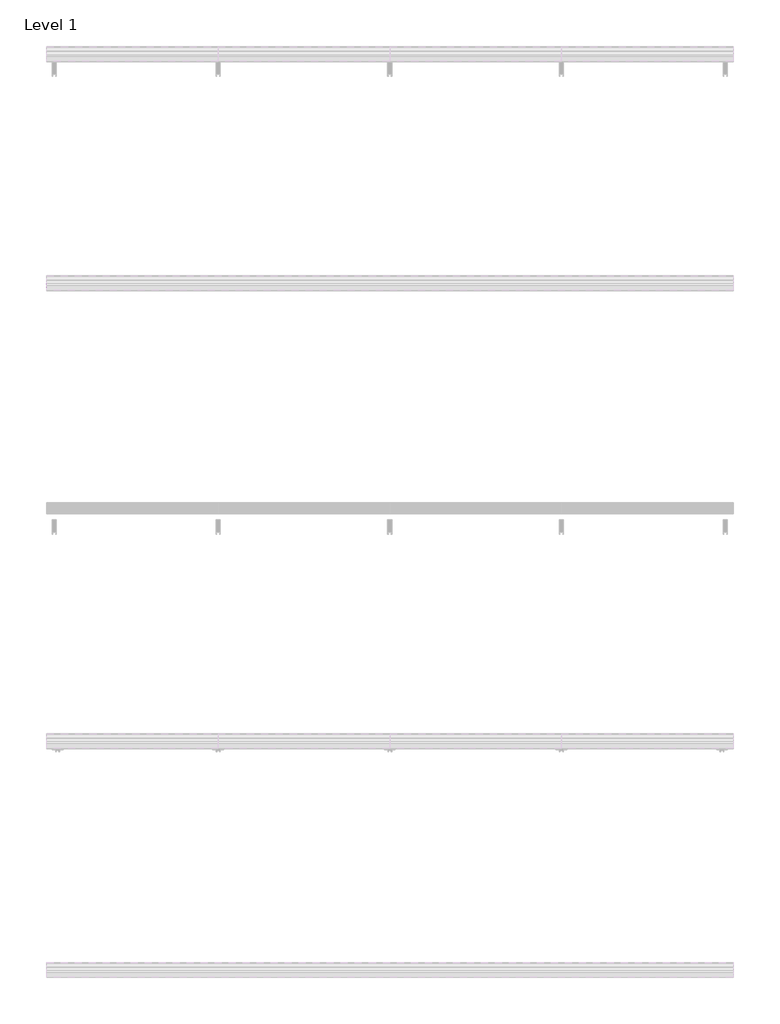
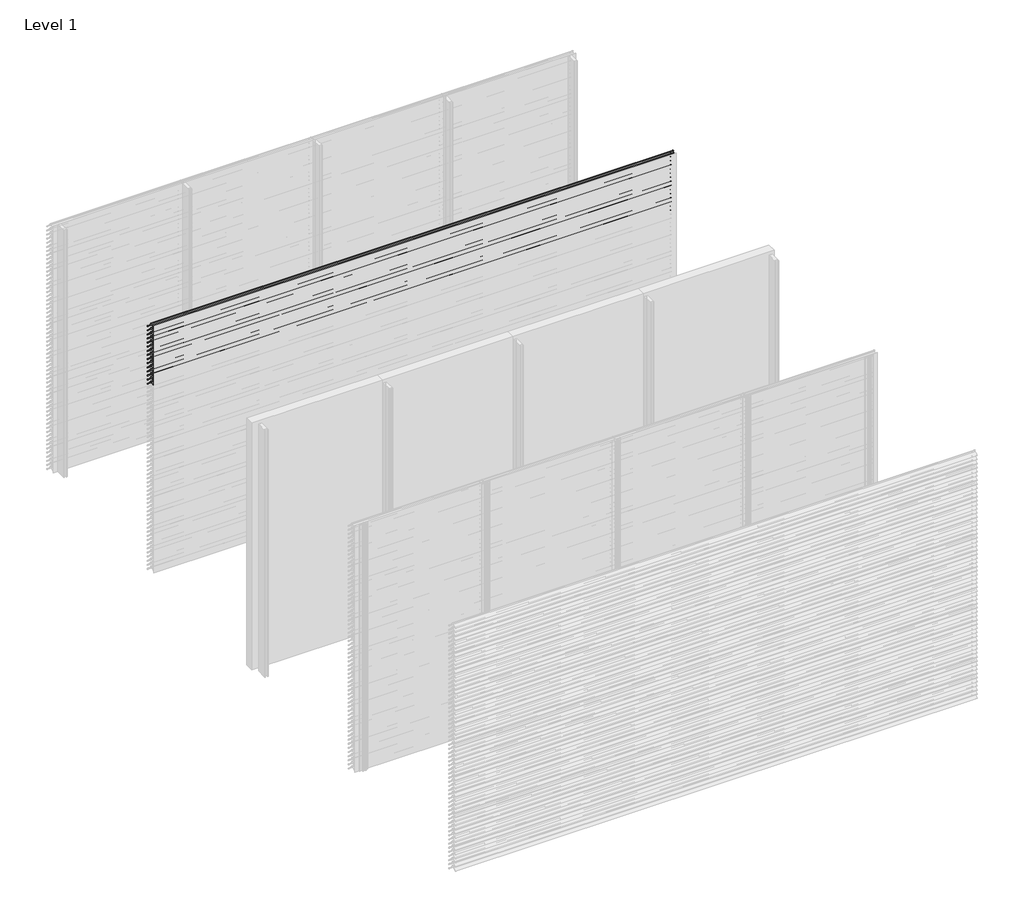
# One storey, part 20 of 173: 17 proxies.
"""IFC4 building model written with IfcOpenShell, lengths in millimetres."""

from ifc_helpers import new_model, si_unit, point, frame, frame_2d, origin, place, context, project, spatial, polyline, circle_curve, trimmed, segment, composite_curve, outline, extrude, element, save

model = new_model("IFC4")

# Units and contexts
model_context = context("Model", 3, world=origin())
ifc_project = project(units=[si_unit("LENGTHUNIT", "METRE", prefix="MILLI")], contexts=[model_context])

# Site, building, storey
site = spatial("IfcSite", under=ifc_project)
building = spatial("IfcBuilding", under=site)
storey = spatial("IfcBuildingStorey", under=building, Name="Level 1", Elevation=0.0)

# Proxies
placement = place(None, origin())
element("IfcBuildingElementProxy", 1, Name="Wall Sweeps", at=placement, inside=storey, context=model_context, shape_type="SweptSolid", body=[
    extrude(outline(composite_curve([segment(polyline([(-49998.0, 2959.1474905), (-49998.0, 2961.6227417)]), True, "CONTINUOUS"), segment(trimmed(circle_curve(frame_2d((-49951.2682172, 2916.2200208)), 65.1557103), [point((-49998.0, 2961.6227417))], [point((-49954.4014323, 2981.3003524))], False, "CARTESIAN"), True, "CONTINUOUS"), segment(polyline([(-49954.4014323, 2981.3003524), (-49934.8315836, 2981.3003524)]), True, "CONTINUOUS"), segment(trimmed(circle_curve(frame_2d((-49732.7329489, 3128.5533172)), 250.0545817), [point((-49934.8315836, 2981.3003524))], [point((-49941.4452143, 2990.8344583))], False, "CARTESIAN"), True, "CONTINUOUS"), segment(trimmed(circle_curve(frame_2d((-49953.2981792, 2985.1737835)), 13.1352966), [point((-49941.4452143, 2990.8344583))], [point((-49953.8171475, 2998.298824))], True, "CARTESIAN"), True, "CONTINUOUS"), segment(polyline([(-49953.8171475, 2998.298824), (-49953.8171475, 3000.0)]), True, "CONTINUOUS"), segment(trimmed(circle_curve(frame_2d((-49953.2981792, 2985.1737835)), 14.8352966), [point((-49953.8171475, 3000.0))], [point((-49939.9637661, 2991.6760487))], False, "CARTESIAN"), True, "CONTINUOUS"), segment(trimmed(circle_curve(frame_2d((-49732.7329489, 3128.5533172)), 248.3545817), [point((-49939.9637661, 2991.6760487))], [point((-49873.8787895, 2924.2059416))], True, "CARTESIAN"), True, "CONTINUOUS"), segment(trimmed(circle_curve(frame_2d((-49883.8147537, 2911.6649442)), 16.0), [point((-49873.8787895, 2924.2059416))], [point((-49867.8648347, 2910.4))], False, "CARTESIAN"), True, "CONTINUOUS"), segment(polyline([(-49867.8648347, 2910.4), (-49869.6712069, 2910.4)]), True, "CONTINUOUS"), segment(trimmed(circle_curve(frame_2d((-49883.8147537, 2911.6649442)), 14.2), [point((-49869.6712069, 2910.4))], [point((-49874.9518628, 2922.7594998))], True, "CARTESIAN"), True, "CONTINUOUS"), segment(trimmed(circle_curve(frame_2d((-49732.7329489, 3128.5533172)), 250.1545817), [point((-49874.9518628, 2922.7594998))], [point((-49933.7064024, 2979.6003524))], False, "CARTESIAN"), True, "CONTINUOUS"), segment(polyline([(-49933.7064024, 2979.6003524), (-49954.3602632, 2979.6003524)]), True, "CONTINUOUS"), segment(trimmed(circle_curve(frame_2d((-49951.2682172, 2916.2200208)), 63.4557103), [point((-49954.3602632, 2979.6003524))], [point((-49998.0, 2959.1474905))], True, "CARTESIAN"), True, "CONTINUOUS")], self_intersect=False)), frame((0.0, 0.0, 0.0), z_axis=(1.0, 0.0, 0.0), x_axis=(0.0, 1.0, 0.0)), (0.0, 0.0, 1.0), 6000.0),
])
element("IfcBuildingElementProxy", 2, Name="Wall Sweeps", at=placement, inside=storey, context=model_context, shape_type="SweptSolid", body=[
    extrude(outline(composite_curve([segment(polyline([(-49998.0, 2909.1474905), (-49998.0, 2911.6227417)]), True, "CONTINUOUS"), segment(trimmed(circle_curve(frame_2d((-49951.2682172, 2866.2200208)), 65.1557103), [point((-49998.0, 2911.6227417))], [point((-49954.4014323, 2931.3003524))], False, "CARTESIAN"), True, "CONTINUOUS"), segment(polyline([(-49954.4014323, 2931.3003524), (-49934.8315836, 2931.3003524)]), True, "CONTINUOUS"), segment(trimmed(circle_curve(frame_2d((-49732.7329489, 3078.5533172)), 250.0545817), [point((-49934.8315836, 2931.3003524))], [point((-49941.4452143, 2940.8344583))], False, "CARTESIAN"), True, "CONTINUOUS"), segment(trimmed(circle_curve(frame_2d((-49953.2981792, 2935.1737835)), 13.1352966), [point((-49941.4452143, 2940.8344583))], [point((-49953.8171475, 2948.298824))], True, "CARTESIAN"), True, "CONTINUOUS"), segment(polyline([(-49953.8171475, 2948.298824), (-49953.8171475, 2950.0)]), True, "CONTINUOUS"), segment(trimmed(circle_curve(frame_2d((-49953.2981792, 2935.1737835)), 14.8352966), [point((-49953.8171475, 2950.0))], [point((-49939.9637661, 2941.6760487))], False, "CARTESIAN"), True, "CONTINUOUS"), segment(trimmed(circle_curve(frame_2d((-49732.7329489, 3078.5533172)), 248.3545817), [point((-49939.9637661, 2941.6760487))], [point((-49873.8787895, 2874.2059416))], True, "CARTESIAN"), True, "CONTINUOUS"), segment(trimmed(circle_curve(frame_2d((-49883.8147537, 2861.6649442)), 16.0), [point((-49873.8787895, 2874.2059416))], [point((-49867.8648347, 2860.4))], False, "CARTESIAN"), True, "CONTINUOUS"), segment(polyline([(-49867.8648347, 2860.4), (-49869.6712069, 2860.4)]), True, "CONTINUOUS"), segment(trimmed(circle_curve(frame_2d((-49883.8147537, 2861.6649442)), 14.2), [point((-49869.6712069, 2860.4))], [point((-49874.9518628, 2872.7594998))], True, "CARTESIAN"), True, "CONTINUOUS"), segment(trimmed(circle_curve(frame_2d((-49732.7329489, 3078.5533172)), 250.1545817), [point((-49874.9518628, 2872.7594998))], [point((-49933.7064024, 2929.6003524))], False, "CARTESIAN"), True, "CONTINUOUS"), segment(polyline([(-49933.7064024, 2929.6003524), (-49954.3602632, 2929.6003524)]), True, "CONTINUOUS"), segment(trimmed(circle_curve(frame_2d((-49951.2682172, 2866.2200208)), 63.4557103), [point((-49954.3602632, 2929.6003524))], [point((-49998.0, 2909.1474905))], True, "CARTESIAN"), True, "CONTINUOUS")], self_intersect=False)), frame((0.0, 0.0, 0.0), z_axis=(1.0, 0.0, 0.0), x_axis=(0.0, 1.0, 0.0)), (0.0, 0.0, 1.0), 6000.0),
])
element("IfcBuildingElementProxy", 3, Name="Wall Sweeps", at=placement, inside=storey, context=model_context, shape_type="SweptSolid", body=[
    extrude(outline(composite_curve([segment(polyline([(-49998.0, 2859.1474905), (-49998.0, 2861.6227417)]), True, "CONTINUOUS"), segment(trimmed(circle_curve(frame_2d((-49951.2682172, 2816.2200208)), 65.1557103), [point((-49998.0, 2861.6227417))], [point((-49954.4014323, 2881.3003524))], False, "CARTESIAN"), True, "CONTINUOUS"), segment(polyline([(-49954.4014323, 2881.3003524), (-49934.8315836, 2881.3003524)]), True, "CONTINUOUS"), segment(trimmed(circle_curve(frame_2d((-49732.7329489, 3028.5533172)), 250.0545817), [point((-49934.8315836, 2881.3003524))], [point((-49941.4452143, 2890.8344583))], False, "CARTESIAN"), True, "CONTINUOUS"), segment(trimmed(circle_curve(frame_2d((-49953.2981792, 2885.1737835)), 13.1352966), [point((-49941.4452143, 2890.8344583))], [point((-49953.8171475, 2898.298824))], True, "CARTESIAN"), True, "CONTINUOUS"), segment(polyline([(-49953.8171475, 2898.298824), (-49953.8171475, 2900.0)]), True, "CONTINUOUS"), segment(trimmed(circle_curve(frame_2d((-49953.2981792, 2885.1737835)), 14.8352966), [point((-49953.8171475, 2900.0))], [point((-49939.9637661, 2891.6760487))], False, "CARTESIAN"), True, "CONTINUOUS"), segment(trimmed(circle_curve(frame_2d((-49732.7329489, 3028.5533172)), 248.3545817), [point((-49939.9637661, 2891.6760487))], [point((-49873.8787895, 2824.2059416))], True, "CARTESIAN"), True, "CONTINUOUS"), segment(trimmed(circle_curve(frame_2d((-49883.8147537, 2811.6649442)), 16.0), [point((-49873.8787895, 2824.2059416))], [point((-49867.8648347, 2810.4))], False, "CARTESIAN"), True, "CONTINUOUS"), segment(polyline([(-49867.8648347, 2810.4), (-49869.6712069, 2810.4)]), True, "CONTINUOUS"), segment(trimmed(circle_curve(frame_2d((-49883.8147537, 2811.6649442)), 14.2), [point((-49869.6712069, 2810.4))], [point((-49874.9518628, 2822.7594998))], True, "CARTESIAN"), True, "CONTINUOUS"), segment(trimmed(circle_curve(frame_2d((-49732.7329489, 3028.5533172)), 250.1545817), [point((-49874.9518628, 2822.7594998))], [point((-49933.7064024, 2879.6003524))], False, "CARTESIAN"), True, "CONTINUOUS"), segment(polyline([(-49933.7064024, 2879.6003524), (-49954.3602632, 2879.6003524)]), True, "CONTINUOUS"), segment(trimmed(circle_curve(frame_2d((-49951.2682172, 2816.2200208)), 63.4557103), [point((-49954.3602632, 2879.6003524))], [point((-49998.0, 2859.1474905))], True, "CARTESIAN"), True, "CONTINUOUS")], self_intersect=False)), frame((0.0, 0.0, 0.0), z_axis=(1.0, 0.0, 0.0), x_axis=(0.0, 1.0, 0.0)), (0.0, 0.0, 1.0), 6000.0),
])
element("IfcBuildingElementProxy", 4, Name="Wall Sweeps", at=placement, inside=storey, context=model_context, shape_type="SweptSolid", body=[
    extrude(outline(composite_curve([segment(polyline([(-49998.0, 2809.1474905), (-49998.0, 2811.6227417)]), True, "CONTINUOUS"), segment(trimmed(circle_curve(frame_2d((-49951.2682172, 2766.2200208)), 65.1557103), [point((-49998.0, 2811.6227417))], [point((-49954.4014323, 2831.3003524))], False, "CARTESIAN"), True, "CONTINUOUS"), segment(polyline([(-49954.4014323, 2831.3003524), (-49934.8315836, 2831.3003524)]), True, "CONTINUOUS"), segment(trimmed(circle_curve(frame_2d((-49732.7329489, 2978.5533172)), 250.0545817), [point((-49934.8315836, 2831.3003524))], [point((-49941.4452143, 2840.8344583))], False, "CARTESIAN"), True, "CONTINUOUS"), segment(trimmed(circle_curve(frame_2d((-49953.2981792, 2835.1737835)), 13.1352966), [point((-49941.4452143, 2840.8344583))], [point((-49953.8171475, 2848.298824))], True, "CARTESIAN"), True, "CONTINUOUS"), segment(polyline([(-49953.8171475, 2848.298824), (-49953.8171475, 2850.0)]), True, "CONTINUOUS"), segment(trimmed(circle_curve(frame_2d((-49953.2981792, 2835.1737835)), 14.8352966), [point((-49953.8171475, 2850.0))], [point((-49939.9637661, 2841.6760487))], False, "CARTESIAN"), True, "CONTINUOUS"), segment(trimmed(circle_curve(frame_2d((-49732.7329489, 2978.5533172)), 248.3545817), [point((-49939.9637661, 2841.6760487))], [point((-49873.8787895, 2774.2059416))], True, "CARTESIAN"), True, "CONTINUOUS"), segment(trimmed(circle_curve(frame_2d((-49883.8147537, 2761.6649442)), 16.0), [point((-49873.8787895, 2774.2059416))], [point((-49867.8648347, 2760.4))], False, "CARTESIAN"), True, "CONTINUOUS"), segment(polyline([(-49867.8648347, 2760.4), (-49869.6712069, 2760.4)]), True, "CONTINUOUS"), segment(trimmed(circle_curve(frame_2d((-49883.8147537, 2761.6649442)), 14.2), [point((-49869.6712069, 2760.4))], [point((-49874.9518628, 2772.7594998))], True, "CARTESIAN"), True, "CONTINUOUS"), segment(trimmed(circle_curve(frame_2d((-49732.7329489, 2978.5533172)), 250.1545817), [point((-49874.9518628, 2772.7594998))], [point((-49933.7064024, 2829.6003524))], False, "CARTESIAN"), True, "CONTINUOUS"), segment(polyline([(-49933.7064024, 2829.6003524), (-49954.3602632, 2829.6003524)]), True, "CONTINUOUS"), segment(trimmed(circle_curve(frame_2d((-49951.2682172, 2766.2200208)), 63.4557103), [point((-49954.3602632, 2829.6003524))], [point((-49998.0, 2809.1474905))], True, "CARTESIAN"), True, "CONTINUOUS")], self_intersect=False)), frame((0.0, 0.0, 0.0), z_axis=(1.0, 0.0, 0.0), x_axis=(0.0, 1.0, 0.0)), (0.0, 0.0, 1.0), 6000.0),
])
element("IfcBuildingElementProxy", 5, Name="Wall Sweeps", at=placement, inside=storey, context=model_context, shape_type="SweptSolid", body=[
    extrude(outline(composite_curve([segment(polyline([(-49998.0, 2759.1474905), (-49998.0, 2761.6227417)]), True, "CONTINUOUS"), segment(trimmed(circle_curve(frame_2d((-49951.2682172, 2716.2200208)), 65.1557103), [point((-49998.0, 2761.6227417))], [point((-49954.4014323, 2781.3003524))], False, "CARTESIAN"), True, "CONTINUOUS"), segment(polyline([(-49954.4014323, 2781.3003524), (-49934.8315836, 2781.3003524)]), True, "CONTINUOUS"), segment(trimmed(circle_curve(frame_2d((-49732.7329489, 2928.5533172)), 250.0545817), [point((-49934.8315836, 2781.3003524))], [point((-49941.4452143, 2790.8344583))], False, "CARTESIAN"), True, "CONTINUOUS"), segment(trimmed(circle_curve(frame_2d((-49953.2981792, 2785.1737835)), 13.1352966), [point((-49941.4452143, 2790.8344583))], [point((-49953.8171475, 2798.298824))], True, "CARTESIAN"), True, "CONTINUOUS"), segment(polyline([(-49953.8171475, 2798.298824), (-49953.8171475, 2800.0)]), True, "CONTINUOUS"), segment(trimmed(circle_curve(frame_2d((-49953.2981792, 2785.1737835)), 14.8352966), [point((-49953.8171475, 2800.0))], [point((-49939.9637661, 2791.6760487))], False, "CARTESIAN"), True, "CONTINUOUS"), segment(trimmed(circle_curve(frame_2d((-49732.7329489, 2928.5533172)), 248.3545817), [point((-49939.9637661, 2791.6760487))], [point((-49873.8787895, 2724.2059416))], True, "CARTESIAN"), True, "CONTINUOUS"), segment(trimmed(circle_curve(frame_2d((-49883.8147537, 2711.6649442)), 16.0), [point((-49873.8787895, 2724.2059416))], [point((-49867.8648347, 2710.4))], False, "CARTESIAN"), True, "CONTINUOUS"), segment(polyline([(-49867.8648347, 2710.4), (-49869.6712069, 2710.4)]), True, "CONTINUOUS"), segment(trimmed(circle_curve(frame_2d((-49883.8147537, 2711.6649442)), 14.2), [point((-49869.6712069, 2710.4))], [point((-49874.9518628, 2722.7594998))], True, "CARTESIAN"), True, "CONTINUOUS"), segment(trimmed(circle_curve(frame_2d((-49732.7329489, 2928.5533172)), 250.1545817), [point((-49874.9518628, 2722.7594998))], [point((-49933.7064024, 2779.6003524))], False, "CARTESIAN"), True, "CONTINUOUS"), segment(polyline([(-49933.7064024, 2779.6003524), (-49954.3602632, 2779.6003524)]), True, "CONTINUOUS"), segment(trimmed(circle_curve(frame_2d((-49951.2682172, 2716.2200208)), 63.4557103), [point((-49954.3602632, 2779.6003524))], [point((-49998.0, 2759.1474905))], True, "CARTESIAN"), True, "CONTINUOUS")], self_intersect=False)), frame((0.0, 0.0, 0.0), z_axis=(1.0, 0.0, 0.0), x_axis=(0.0, 1.0, 0.0)), (0.0, 0.0, 1.0), 6000.0),
])
element("IfcBuildingElementProxy", 6, Name="Wall Sweeps", at=placement, inside=storey, context=model_context, shape_type="SweptSolid", body=[
    extrude(outline(composite_curve([segment(polyline([(-49998.0, 2709.1474905), (-49998.0, 2711.6227417)]), True, "CONTINUOUS"), segment(trimmed(circle_curve(frame_2d((-49951.2682172, 2666.2200208)), 65.1557103), [point((-49998.0, 2711.6227417))], [point((-49954.4014323, 2731.3003524))], False, "CARTESIAN"), True, "CONTINUOUS"), segment(polyline([(-49954.4014323, 2731.3003524), (-49934.8315836, 2731.3003524)]), True, "CONTINUOUS"), segment(trimmed(circle_curve(frame_2d((-49732.7329489, 2878.5533172)), 250.0545817), [point((-49934.8315836, 2731.3003524))], [point((-49941.4452143, 2740.8344583))], False, "CARTESIAN"), True, "CONTINUOUS"), segment(trimmed(circle_curve(frame_2d((-49953.2981792, 2735.1737835)), 13.1352966), [point((-49941.4452143, 2740.8344583))], [point((-49953.8171475, 2748.298824))], True, "CARTESIAN"), True, "CONTINUOUS"), segment(polyline([(-49953.8171475, 2748.298824), (-49953.8171475, 2750.0)]), True, "CONTINUOUS"), segment(trimmed(circle_curve(frame_2d((-49953.2981792, 2735.1737835)), 14.8352966), [point((-49953.8171475, 2750.0))], [point((-49939.9637661, 2741.6760487))], False, "CARTESIAN"), True, "CONTINUOUS"), segment(trimmed(circle_curve(frame_2d((-49732.7329489, 2878.5533172)), 248.3545817), [point((-49939.9637661, 2741.6760487))], [point((-49873.8787895, 2674.2059416))], True, "CARTESIAN"), True, "CONTINUOUS"), segment(trimmed(circle_curve(frame_2d((-49883.8147537, 2661.6649442)), 16.0), [point((-49873.8787895, 2674.2059416))], [point((-49867.8648347, 2660.4))], False, "CARTESIAN"), True, "CONTINUOUS"), segment(polyline([(-49867.8648347, 2660.4), (-49869.6712069, 2660.4)]), True, "CONTINUOUS"), segment(trimmed(circle_curve(frame_2d((-49883.8147537, 2661.6649442)), 14.2), [point((-49869.6712069, 2660.4))], [point((-49874.9518628, 2672.7594998))], True, "CARTESIAN"), True, "CONTINUOUS"), segment(trimmed(circle_curve(frame_2d((-49732.7329489, 2878.5533172)), 250.1545817), [point((-49874.9518628, 2672.7594998))], [point((-49933.7064024, 2729.6003524))], False, "CARTESIAN"), True, "CONTINUOUS"), segment(polyline([(-49933.7064024, 2729.6003524), (-49954.3602632, 2729.6003524)]), True, "CONTINUOUS"), segment(trimmed(circle_curve(frame_2d((-49951.2682172, 2666.2200208)), 63.4557103), [point((-49954.3602632, 2729.6003524))], [point((-49998.0, 2709.1474905))], True, "CARTESIAN"), True, "CONTINUOUS")], self_intersect=False)), frame((0.0, 0.0, 0.0), z_axis=(1.0, 0.0, 0.0), x_axis=(0.0, 1.0, 0.0)), (0.0, 0.0, 1.0), 6000.0),
])
element("IfcBuildingElementProxy", 7, Name="Wall Sweeps", at=placement, inside=storey, context=model_context, shape_type="SweptSolid", body=[
    extrude(outline(composite_curve([segment(polyline([(-49998.0, 2659.1474905), (-49998.0, 2661.6227417)]), True, "CONTINUOUS"), segment(trimmed(circle_curve(frame_2d((-49951.2682172, 2616.2200208)), 65.1557103), [point((-49998.0, 2661.6227417))], [point((-49954.4014323, 2681.3003524))], False, "CARTESIAN"), True, "CONTINUOUS"), segment(polyline([(-49954.4014323, 2681.3003524), (-49934.8315836, 2681.3003524)]), True, "CONTINUOUS"), segment(trimmed(circle_curve(frame_2d((-49732.7329489, 2828.5533172)), 250.0545817), [point((-49934.8315836, 2681.3003524))], [point((-49941.4452143, 2690.8344583))], False, "CARTESIAN"), True, "CONTINUOUS"), segment(trimmed(circle_curve(frame_2d((-49953.2981792, 2685.1737835)), 13.1352966), [point((-49941.4452143, 2690.8344583))], [point((-49953.8171475, 2698.298824))], True, "CARTESIAN"), True, "CONTINUOUS"), segment(polyline([(-49953.8171475, 2698.298824), (-49953.8171475, 2700.0)]), True, "CONTINUOUS"), segment(trimmed(circle_curve(frame_2d((-49953.2981792, 2685.1737835)), 14.8352966), [point((-49953.8171475, 2700.0))], [point((-49939.9637661, 2691.6760487))], False, "CARTESIAN"), True, "CONTINUOUS"), segment(trimmed(circle_curve(frame_2d((-49732.7329489, 2828.5533172)), 248.3545817), [point((-49939.9637661, 2691.6760487))], [point((-49873.8787895, 2624.2059416))], True, "CARTESIAN"), True, "CONTINUOUS"), segment(trimmed(circle_curve(frame_2d((-49883.8147537, 2611.6649442)), 16.0), [point((-49873.8787895, 2624.2059416))], [point((-49867.8648347, 2610.4))], False, "CARTESIAN"), True, "CONTINUOUS"), segment(polyline([(-49867.8648347, 2610.4), (-49869.6712069, 2610.4)]), True, "CONTINUOUS"), segment(trimmed(circle_curve(frame_2d((-49883.8147537, 2611.6649442)), 14.2), [point((-49869.6712069, 2610.4))], [point((-49874.9518628, 2622.7594998))], True, "CARTESIAN"), True, "CONTINUOUS"), segment(trimmed(circle_curve(frame_2d((-49732.7329489, 2828.5533172)), 250.1545817), [point((-49874.9518628, 2622.7594998))], [point((-49933.7064024, 2679.6003524))], False, "CARTESIAN"), True, "CONTINUOUS"), segment(polyline([(-49933.7064024, 2679.6003524), (-49954.3602632, 2679.6003524)]), True, "CONTINUOUS"), segment(trimmed(circle_curve(frame_2d((-49951.2682172, 2616.2200208)), 63.4557103), [point((-49954.3602632, 2679.6003524))], [point((-49998.0, 2659.1474905))], True, "CARTESIAN"), True, "CONTINUOUS")], self_intersect=False)), frame((0.0, 0.0, 0.0), z_axis=(1.0, 0.0, 0.0), x_axis=(0.0, 1.0, 0.0)), (0.0, 0.0, 1.0), 6000.0),
])
element("IfcBuildingElementProxy", 8, Name="Wall Sweeps", at=placement, inside=storey, context=model_context, shape_type="SweptSolid", body=[
    extrude(outline(composite_curve([segment(polyline([(-49998.0, 2609.1474905), (-49998.0, 2611.6227417)]), True, "CONTINUOUS"), segment(trimmed(circle_curve(frame_2d((-49951.2682172, 2566.2200208)), 65.1557103), [point((-49998.0, 2611.6227417))], [point((-49954.4014323, 2631.3003524))], False, "CARTESIAN"), True, "CONTINUOUS"), segment(polyline([(-49954.4014323, 2631.3003524), (-49934.8315836, 2631.3003524)]), True, "CONTINUOUS"), segment(trimmed(circle_curve(frame_2d((-49732.7329489, 2778.5533172)), 250.0545817), [point((-49934.8315836, 2631.3003524))], [point((-49941.4452143, 2640.8344583))], False, "CARTESIAN"), True, "CONTINUOUS"), segment(trimmed(circle_curve(frame_2d((-49953.2981792, 2635.1737835)), 13.1352966), [point((-49941.4452143, 2640.8344583))], [point((-49953.8171475, 2648.298824))], True, "CARTESIAN"), True, "CONTINUOUS"), segment(polyline([(-49953.8171475, 2648.298824), (-49953.8171475, 2650.0)]), True, "CONTINUOUS"), segment(trimmed(circle_curve(frame_2d((-49953.2981792, 2635.1737835)), 14.8352966), [point((-49953.8171475, 2650.0))], [point((-49939.9637661, 2641.6760487))], False, "CARTESIAN"), True, "CONTINUOUS"), segment(trimmed(circle_curve(frame_2d((-49732.7329489, 2778.5533172)), 248.3545817), [point((-49939.9637661, 2641.6760487))], [point((-49873.8787895, 2574.2059416))], True, "CARTESIAN"), True, "CONTINUOUS"), segment(trimmed(circle_curve(frame_2d((-49883.8147537, 2561.6649442)), 16.0), [point((-49873.8787895, 2574.2059416))], [point((-49867.8648347, 2560.4))], False, "CARTESIAN"), True, "CONTINUOUS"), segment(polyline([(-49867.8648347, 2560.4), (-49869.6712069, 2560.4)]), True, "CONTINUOUS"), segment(trimmed(circle_curve(frame_2d((-49883.8147537, 2561.6649442)), 14.2), [point((-49869.6712069, 2560.4))], [point((-49874.9518628, 2572.7594998))], True, "CARTESIAN"), True, "CONTINUOUS"), segment(trimmed(circle_curve(frame_2d((-49732.7329489, 2778.5533172)), 250.1545817), [point((-49874.9518628, 2572.7594998))], [point((-49933.7064024, 2629.6003524))], False, "CARTESIAN"), True, "CONTINUOUS"), segment(polyline([(-49933.7064024, 2629.6003524), (-49954.3602632, 2629.6003524)]), True, "CONTINUOUS"), segment(trimmed(circle_curve(frame_2d((-49951.2682172, 2566.2200208)), 63.4557103), [point((-49954.3602632, 2629.6003524))], [point((-49998.0, 2609.1474905))], True, "CARTESIAN"), True, "CONTINUOUS")], self_intersect=False)), frame((0.0, 0.0, 0.0), z_axis=(1.0, 0.0, 0.0), x_axis=(0.0, 1.0, 0.0)), (0.0, 0.0, 1.0), 6000.0),
])
element("IfcBuildingElementProxy", 9, Name="Wall Sweeps", at=placement, inside=storey, context=model_context, shape_type="SweptSolid", body=[
    extrude(outline(composite_curve([segment(polyline([(-49998.0, 2559.1474905), (-49998.0, 2561.6227417)]), True, "CONTINUOUS"), segment(trimmed(circle_curve(frame_2d((-49951.2682172, 2516.2200208)), 65.1557103), [point((-49998.0, 2561.6227417))], [point((-49954.4014323, 2581.3003524))], False, "CARTESIAN"), True, "CONTINUOUS"), segment(polyline([(-49954.4014323, 2581.3003524), (-49934.8315836, 2581.3003524)]), True, "CONTINUOUS"), segment(trimmed(circle_curve(frame_2d((-49732.7329489, 2728.5533172)), 250.0545817), [point((-49934.8315836, 2581.3003524))], [point((-49941.4452143, 2590.8344583))], False, "CARTESIAN"), True, "CONTINUOUS"), segment(trimmed(circle_curve(frame_2d((-49953.2981792, 2585.1737835)), 13.1352966), [point((-49941.4452143, 2590.8344583))], [point((-49953.8171475, 2598.298824))], True, "CARTESIAN"), True, "CONTINUOUS"), segment(polyline([(-49953.8171475, 2598.298824), (-49953.8171475, 2600.0)]), True, "CONTINUOUS"), segment(trimmed(circle_curve(frame_2d((-49953.2981792, 2585.1737835)), 14.8352966), [point((-49953.8171475, 2600.0))], [point((-49939.9637661, 2591.6760487))], False, "CARTESIAN"), True, "CONTINUOUS"), segment(trimmed(circle_curve(frame_2d((-49732.7329489, 2728.5533172)), 248.3545817), [point((-49939.9637661, 2591.6760487))], [point((-49873.8787895, 2524.2059416))], True, "CARTESIAN"), True, "CONTINUOUS"), segment(trimmed(circle_curve(frame_2d((-49883.8147537, 2511.6649442)), 16.0), [point((-49873.8787895, 2524.2059416))], [point((-49867.8648347, 2510.4))], False, "CARTESIAN"), True, "CONTINUOUS"), segment(polyline([(-49867.8648347, 2510.4), (-49869.6712069, 2510.4)]), True, "CONTINUOUS"), segment(trimmed(circle_curve(frame_2d((-49883.8147537, 2511.6649442)), 14.2), [point((-49869.6712069, 2510.4))], [point((-49874.9518628, 2522.7594998))], True, "CARTESIAN"), True, "CONTINUOUS"), segment(trimmed(circle_curve(frame_2d((-49732.7329489, 2728.5533172)), 250.1545817), [point((-49874.9518628, 2522.7594998))], [point((-49933.7064024, 2579.6003524))], False, "CARTESIAN"), True, "CONTINUOUS"), segment(polyline([(-49933.7064024, 2579.6003524), (-49954.3602632, 2579.6003524)]), True, "CONTINUOUS"), segment(trimmed(circle_curve(frame_2d((-49951.2682172, 2516.2200208)), 63.4557103), [point((-49954.3602632, 2579.6003524))], [point((-49998.0, 2559.1474905))], True, "CARTESIAN"), True, "CONTINUOUS")], self_intersect=False)), frame((0.0, 0.0, 0.0), z_axis=(1.0, 0.0, 0.0), x_axis=(0.0, 1.0, 0.0)), (0.0, 0.0, 1.0), 6000.0),
])
element("IfcBuildingElementProxy", 10, Name="Wall Sweeps", at=placement, inside=storey, context=model_context, shape_type="SweptSolid", body=[
    extrude(outline(composite_curve([segment(polyline([(-49998.0, 2509.1474905), (-49998.0, 2511.6227417)]), True, "CONTINUOUS"), segment(trimmed(circle_curve(frame_2d((-49951.2682172, 2466.2200208)), 65.1557103), [point((-49998.0, 2511.6227417))], [point((-49954.4014323, 2531.3003524))], False, "CARTESIAN"), True, "CONTINUOUS"), segment(polyline([(-49954.4014323, 2531.3003524), (-49934.8315836, 2531.3003524)]), True, "CONTINUOUS"), segment(trimmed(circle_curve(frame_2d((-49732.7329489, 2678.5533172)), 250.0545817), [point((-49934.8315836, 2531.3003524))], [point((-49941.4452143, 2540.8344583))], False, "CARTESIAN"), True, "CONTINUOUS"), segment(trimmed(circle_curve(frame_2d((-49953.2981792, 2535.1737835)), 13.1352966), [point((-49941.4452143, 2540.8344583))], [point((-49953.8171475, 2548.298824))], True, "CARTESIAN"), True, "CONTINUOUS"), segment(polyline([(-49953.8171475, 2548.298824), (-49953.8171475, 2550.0)]), True, "CONTINUOUS"), segment(trimmed(circle_curve(frame_2d((-49953.2981792, 2535.1737835)), 14.8352966), [point((-49953.8171475, 2550.0))], [point((-49939.9637661, 2541.6760487))], False, "CARTESIAN"), True, "CONTINUOUS"), segment(trimmed(circle_curve(frame_2d((-49732.7329489, 2678.5533172)), 248.3545817), [point((-49939.9637661, 2541.6760487))], [point((-49873.8787895, 2474.2059416))], True, "CARTESIAN"), True, "CONTINUOUS"), segment(trimmed(circle_curve(frame_2d((-49883.8147537, 2461.6649442)), 16.0), [point((-49873.8787895, 2474.2059416))], [point((-49867.8648347, 2460.4))], False, "CARTESIAN"), True, "CONTINUOUS"), segment(polyline([(-49867.8648347, 2460.4), (-49869.6712069, 2460.4)]), True, "CONTINUOUS"), segment(trimmed(circle_curve(frame_2d((-49883.8147537, 2461.6649442)), 14.2), [point((-49869.6712069, 2460.4))], [point((-49874.9518628, 2472.7594998))], True, "CARTESIAN"), True, "CONTINUOUS"), segment(trimmed(circle_curve(frame_2d((-49732.7329489, 2678.5533172)), 250.1545817), [point((-49874.9518628, 2472.7594998))], [point((-49933.7064024, 2529.6003524))], False, "CARTESIAN"), True, "CONTINUOUS"), segment(polyline([(-49933.7064024, 2529.6003524), (-49954.3602632, 2529.6003524)]), True, "CONTINUOUS"), segment(trimmed(circle_curve(frame_2d((-49951.2682172, 2466.2200208)), 63.4557103), [point((-49954.3602632, 2529.6003524))], [point((-49998.0, 2509.1474905))], True, "CARTESIAN"), True, "CONTINUOUS")], self_intersect=False)), frame((0.0, 0.0, 0.0), z_axis=(1.0, 0.0, 0.0), x_axis=(0.0, 1.0, 0.0)), (0.0, 0.0, 1.0), 6000.0),
])
element("IfcBuildingElementProxy", 11, Name="Wall Sweeps", at=placement, inside=storey, context=model_context, shape_type="SweptSolid", body=[
    extrude(outline(composite_curve([segment(polyline([(-49998.0, 2459.1474905), (-49998.0, 2461.6227417)]), True, "CONTINUOUS"), segment(trimmed(circle_curve(frame_2d((-49951.2682172, 2416.2200208)), 65.1557103), [point((-49998.0, 2461.6227417))], [point((-49954.4014323, 2481.3003524))], False, "CARTESIAN"), True, "CONTINUOUS"), segment(polyline([(-49954.4014323, 2481.3003524), (-49934.8315836, 2481.3003524)]), True, "CONTINUOUS"), segment(trimmed(circle_curve(frame_2d((-49732.7329489, 2628.5533172)), 250.0545817), [point((-49934.8315836, 2481.3003524))], [point((-49941.4452143, 2490.8344583))], False, "CARTESIAN"), True, "CONTINUOUS"), segment(trimmed(circle_curve(frame_2d((-49953.2981792, 2485.1737835)), 13.1352966), [point((-49941.4452143, 2490.8344583))], [point((-49953.8171475, 2498.298824))], True, "CARTESIAN"), True, "CONTINUOUS"), segment(polyline([(-49953.8171475, 2498.298824), (-49953.8171475, 2500.0)]), True, "CONTINUOUS"), segment(trimmed(circle_curve(frame_2d((-49953.2981792, 2485.1737835)), 14.8352966), [point((-49953.8171475, 2500.0))], [point((-49939.9637661, 2491.6760487))], False, "CARTESIAN"), True, "CONTINUOUS"), segment(trimmed(circle_curve(frame_2d((-49732.7329489, 2628.5533172)), 248.3545817), [point((-49939.9637661, 2491.6760487))], [point((-49873.8787895, 2424.2059416))], True, "CARTESIAN"), True, "CONTINUOUS"), segment(trimmed(circle_curve(frame_2d((-49883.8147537, 2411.6649442)), 16.0), [point((-49873.8787895, 2424.2059416))], [point((-49867.8648347, 2410.4))], False, "CARTESIAN"), True, "CONTINUOUS"), segment(polyline([(-49867.8648347, 2410.4), (-49869.6712069, 2410.4)]), True, "CONTINUOUS"), segment(trimmed(circle_curve(frame_2d((-49883.8147537, 2411.6649442)), 14.2), [point((-49869.6712069, 2410.4))], [point((-49874.9518628, 2422.7594998))], True, "CARTESIAN"), True, "CONTINUOUS"), segment(trimmed(circle_curve(frame_2d((-49732.7329489, 2628.5533172)), 250.1545817), [point((-49874.9518628, 2422.7594998))], [point((-49933.7064024, 2479.6003524))], False, "CARTESIAN"), True, "CONTINUOUS"), segment(polyline([(-49933.7064024, 2479.6003524), (-49954.3602632, 2479.6003524)]), True, "CONTINUOUS"), segment(trimmed(circle_curve(frame_2d((-49951.2682172, 2416.2200208)), 63.4557103), [point((-49954.3602632, 2479.6003524))], [point((-49998.0, 2459.1474905))], True, "CARTESIAN"), True, "CONTINUOUS")], self_intersect=False)), frame((0.0, 0.0, 0.0), z_axis=(1.0, 0.0, 0.0), x_axis=(0.0, 1.0, 0.0)), (0.0, 0.0, 1.0), 6000.0),
])
element("IfcBuildingElementProxy", 12, Name="Wall Sweeps", at=placement, inside=storey, context=model_context, shape_type="SweptSolid", body=[
    extrude(outline(composite_curve([segment(polyline([(-49998.0, 2409.1474905), (-49998.0, 2411.6227417)]), True, "CONTINUOUS"), segment(trimmed(circle_curve(frame_2d((-49951.2682172, 2366.2200208)), 65.1557103), [point((-49998.0, 2411.6227417))], [point((-49954.4014323, 2431.3003524))], False, "CARTESIAN"), True, "CONTINUOUS"), segment(polyline([(-49954.4014323, 2431.3003524), (-49934.8315836, 2431.3003524)]), True, "CONTINUOUS"), segment(trimmed(circle_curve(frame_2d((-49732.7329489, 2578.5533172)), 250.0545817), [point((-49934.8315836, 2431.3003524))], [point((-49941.4452143, 2440.8344583))], False, "CARTESIAN"), True, "CONTINUOUS"), segment(trimmed(circle_curve(frame_2d((-49953.2981792, 2435.1737835)), 13.1352966), [point((-49941.4452143, 2440.8344583))], [point((-49953.8171475, 2448.298824))], True, "CARTESIAN"), True, "CONTINUOUS"), segment(polyline([(-49953.8171475, 2448.298824), (-49953.8171475, 2450.0)]), True, "CONTINUOUS"), segment(trimmed(circle_curve(frame_2d((-49953.2981792, 2435.1737835)), 14.8352966), [point((-49953.8171475, 2450.0))], [point((-49939.9637661, 2441.6760487))], False, "CARTESIAN"), True, "CONTINUOUS"), segment(trimmed(circle_curve(frame_2d((-49732.7329489, 2578.5533172)), 248.3545817), [point((-49939.9637661, 2441.6760487))], [point((-49873.8787895, 2374.2059416))], True, "CARTESIAN"), True, "CONTINUOUS"), segment(trimmed(circle_curve(frame_2d((-49883.8147537, 2361.6649442)), 16.0), [point((-49873.8787895, 2374.2059416))], [point((-49867.8648347, 2360.4))], False, "CARTESIAN"), True, "CONTINUOUS"), segment(polyline([(-49867.8648347, 2360.4), (-49869.6712069, 2360.4)]), True, "CONTINUOUS"), segment(trimmed(circle_curve(frame_2d((-49883.8147537, 2361.6649442)), 14.2), [point((-49869.6712069, 2360.4))], [point((-49874.9518628, 2372.7594998))], True, "CARTESIAN"), True, "CONTINUOUS"), segment(trimmed(circle_curve(frame_2d((-49732.7329489, 2578.5533172)), 250.1545817), [point((-49874.9518628, 2372.7594998))], [point((-49933.7064024, 2429.6003524))], False, "CARTESIAN"), True, "CONTINUOUS"), segment(polyline([(-49933.7064024, 2429.6003524), (-49954.3602632, 2429.6003524)]), True, "CONTINUOUS"), segment(trimmed(circle_curve(frame_2d((-49951.2682172, 2366.2200208)), 63.4557103), [point((-49954.3602632, 2429.6003524))], [point((-49998.0, 2409.1474905))], True, "CARTESIAN"), True, "CONTINUOUS")], self_intersect=False)), frame((0.0, 0.0, 0.0), z_axis=(1.0, 0.0, 0.0), x_axis=(0.0, 1.0, 0.0)), (0.0, 0.0, 1.0), 6000.0),
])
element("IfcBuildingElementProxy", 13, Name="Wall Sweeps", at=placement, inside=storey, context=model_context, shape_type="SweptSolid", body=[
    extrude(outline(composite_curve([segment(polyline([(-49998.0, 2359.1474905), (-49998.0, 2361.6227417)]), True, "CONTINUOUS"), segment(trimmed(circle_curve(frame_2d((-49951.2682172, 2316.2200208)), 65.1557103), [point((-49998.0, 2361.6227417))], [point((-49954.4014323, 2381.3003524))], False, "CARTESIAN"), True, "CONTINUOUS"), segment(polyline([(-49954.4014323, 2381.3003524), (-49934.8315836, 2381.3003524)]), True, "CONTINUOUS"), segment(trimmed(circle_curve(frame_2d((-49732.7329489, 2528.5533172)), 250.0545817), [point((-49934.8315836, 2381.3003524))], [point((-49941.4452143, 2390.8344583))], False, "CARTESIAN"), True, "CONTINUOUS"), segment(trimmed(circle_curve(frame_2d((-49953.2981792, 2385.1737835)), 13.1352966), [point((-49941.4452143, 2390.8344583))], [point((-49953.8171475, 2398.298824))], True, "CARTESIAN"), True, "CONTINUOUS"), segment(polyline([(-49953.8171475, 2398.298824), (-49953.8171475, 2400.0)]), True, "CONTINUOUS"), segment(trimmed(circle_curve(frame_2d((-49953.2981792, 2385.1737835)), 14.8352966), [point((-49953.8171475, 2400.0))], [point((-49939.9637661, 2391.6760487))], False, "CARTESIAN"), True, "CONTINUOUS"), segment(trimmed(circle_curve(frame_2d((-49732.7329489, 2528.5533172)), 248.3545817), [point((-49939.9637661, 2391.6760487))], [point((-49873.8787895, 2324.2059416))], True, "CARTESIAN"), True, "CONTINUOUS"), segment(trimmed(circle_curve(frame_2d((-49883.8147537, 2311.6649442)), 16.0), [point((-49873.8787895, 2324.2059416))], [point((-49867.8648347, 2310.4))], False, "CARTESIAN"), True, "CONTINUOUS"), segment(polyline([(-49867.8648347, 2310.4), (-49869.6712069, 2310.4)]), True, "CONTINUOUS"), segment(trimmed(circle_curve(frame_2d((-49883.8147537, 2311.6649442)), 14.2), [point((-49869.6712069, 2310.4))], [point((-49874.9518628, 2322.7594998))], True, "CARTESIAN"), True, "CONTINUOUS"), segment(trimmed(circle_curve(frame_2d((-49732.7329489, 2528.5533172)), 250.1545817), [point((-49874.9518628, 2322.7594998))], [point((-49933.7064024, 2379.6003524))], False, "CARTESIAN"), True, "CONTINUOUS"), segment(polyline([(-49933.7064024, 2379.6003524), (-49954.3602632, 2379.6003524)]), True, "CONTINUOUS"), segment(trimmed(circle_curve(frame_2d((-49951.2682172, 2316.2200208)), 63.4557103), [point((-49954.3602632, 2379.6003524))], [point((-49998.0, 2359.1474905))], True, "CARTESIAN"), True, "CONTINUOUS")], self_intersect=False)), frame((0.0, 0.0, 0.0), z_axis=(1.0, 0.0, 0.0), x_axis=(0.0, 1.0, 0.0)), (0.0, 0.0, 1.0), 6000.0),
])
element("IfcBuildingElementProxy", 14, Name="Wall Sweeps", at=placement, inside=storey, context=model_context, shape_type="SweptSolid", body=[
    extrude(outline(composite_curve([segment(polyline([(-49998.0, 2309.1474905), (-49998.0, 2311.6227417)]), True, "CONTINUOUS"), segment(trimmed(circle_curve(frame_2d((-49951.2682172, 2266.2200208)), 65.1557103), [point((-49998.0, 2311.6227417))], [point((-49954.4014323, 2331.3003524))], False, "CARTESIAN"), True, "CONTINUOUS"), segment(polyline([(-49954.4014323, 2331.3003524), (-49934.8315836, 2331.3003524)]), True, "CONTINUOUS"), segment(trimmed(circle_curve(frame_2d((-49732.7329489, 2478.5533172)), 250.0545817), [point((-49934.8315836, 2331.3003524))], [point((-49941.4452143, 2340.8344583))], False, "CARTESIAN"), True, "CONTINUOUS"), segment(trimmed(circle_curve(frame_2d((-49953.2981792, 2335.1737835)), 13.1352966), [point((-49941.4452143, 2340.8344583))], [point((-49953.8171475, 2348.298824))], True, "CARTESIAN"), True, "CONTINUOUS"), segment(polyline([(-49953.8171475, 2348.298824), (-49953.8171475, 2350.0)]), True, "CONTINUOUS"), segment(trimmed(circle_curve(frame_2d((-49953.2981792, 2335.1737835)), 14.8352966), [point((-49953.8171475, 2350.0))], [point((-49939.9637661, 2341.6760487))], False, "CARTESIAN"), True, "CONTINUOUS"), segment(trimmed(circle_curve(frame_2d((-49732.7329489, 2478.5533172)), 248.3545817), [point((-49939.9637661, 2341.6760487))], [point((-49873.8787895, 2274.2059416))], True, "CARTESIAN"), True, "CONTINUOUS"), segment(trimmed(circle_curve(frame_2d((-49883.8147537, 2261.6649442)), 16.0), [point((-49873.8787895, 2274.2059416))], [point((-49867.8648347, 2260.4))], False, "CARTESIAN"), True, "CONTINUOUS"), segment(polyline([(-49867.8648347, 2260.4), (-49869.6712069, 2260.4)]), True, "CONTINUOUS"), segment(trimmed(circle_curve(frame_2d((-49883.8147537, 2261.6649442)), 14.2), [point((-49869.6712069, 2260.4))], [point((-49874.9518628, 2272.7594998))], True, "CARTESIAN"), True, "CONTINUOUS"), segment(trimmed(circle_curve(frame_2d((-49732.7329489, 2478.5533172)), 250.1545817), [point((-49874.9518628, 2272.7594998))], [point((-49933.7064024, 2329.6003524))], False, "CARTESIAN"), True, "CONTINUOUS"), segment(polyline([(-49933.7064024, 2329.6003524), (-49954.3602632, 2329.6003524)]), True, "CONTINUOUS"), segment(trimmed(circle_curve(frame_2d((-49951.2682172, 2266.2200208)), 63.4557103), [point((-49954.3602632, 2329.6003524))], [point((-49998.0, 2309.1474905))], True, "CARTESIAN"), True, "CONTINUOUS")], self_intersect=False)), frame((0.0, 0.0, 0.0), z_axis=(1.0, 0.0, 0.0), x_axis=(0.0, 1.0, 0.0)), (0.0, 0.0, 1.0), 6000.0),
])
element("IfcBuildingElementProxy", 15, Name="Wall Sweeps", at=placement, inside=storey, context=model_context, shape_type="SweptSolid", body=[
    extrude(outline(composite_curve([segment(polyline([(-49998.0, 2259.1474905), (-49998.0, 2261.6227417)]), True, "CONTINUOUS"), segment(trimmed(circle_curve(frame_2d((-49951.2682172, 2216.2200208)), 65.1557103), [point((-49998.0, 2261.6227417))], [point((-49954.4014323, 2281.3003524))], False, "CARTESIAN"), True, "CONTINUOUS"), segment(polyline([(-49954.4014323, 2281.3003524), (-49934.8315836, 2281.3003524)]), True, "CONTINUOUS"), segment(trimmed(circle_curve(frame_2d((-49732.7329489, 2428.5533172)), 250.0545817), [point((-49934.8315836, 2281.3003524))], [point((-49941.4452143, 2290.8344583))], False, "CARTESIAN"), True, "CONTINUOUS"), segment(trimmed(circle_curve(frame_2d((-49953.2981792, 2285.1737835)), 13.1352966), [point((-49941.4452143, 2290.8344583))], [point((-49953.8171475, 2298.298824))], True, "CARTESIAN"), True, "CONTINUOUS"), segment(polyline([(-49953.8171475, 2298.298824), (-49953.8171475, 2300.0)]), True, "CONTINUOUS"), segment(trimmed(circle_curve(frame_2d((-49953.2981792, 2285.1737835)), 14.8352966), [point((-49953.8171475, 2300.0))], [point((-49939.9637661, 2291.6760487))], False, "CARTESIAN"), True, "CONTINUOUS"), segment(trimmed(circle_curve(frame_2d((-49732.7329489, 2428.5533172)), 248.3545817), [point((-49939.9637661, 2291.6760487))], [point((-49873.8787895, 2224.2059416))], True, "CARTESIAN"), True, "CONTINUOUS"), segment(trimmed(circle_curve(frame_2d((-49883.8147537, 2211.6649442)), 16.0), [point((-49873.8787895, 2224.2059416))], [point((-49867.8648347, 2210.4))], False, "CARTESIAN"), True, "CONTINUOUS"), segment(polyline([(-49867.8648347, 2210.4), (-49869.6712069, 2210.4)]), True, "CONTINUOUS"), segment(trimmed(circle_curve(frame_2d((-49883.8147537, 2211.6649442)), 14.2), [point((-49869.6712069, 2210.4))], [point((-49874.9518628, 2222.7594998))], True, "CARTESIAN"), True, "CONTINUOUS"), segment(trimmed(circle_curve(frame_2d((-49732.7329489, 2428.5533172)), 250.1545817), [point((-49874.9518628, 2222.7594998))], [point((-49933.7064024, 2279.6003524))], False, "CARTESIAN"), True, "CONTINUOUS"), segment(polyline([(-49933.7064024, 2279.6003524), (-49954.3602632, 2279.6003524)]), True, "CONTINUOUS"), segment(trimmed(circle_curve(frame_2d((-49951.2682172, 2216.2200208)), 63.4557103), [point((-49954.3602632, 2279.6003524))], [point((-49998.0, 2259.1474905))], True, "CARTESIAN"), True, "CONTINUOUS")], self_intersect=False)), frame((0.0, 0.0, 0.0), z_axis=(1.0, 0.0, 0.0), x_axis=(0.0, 1.0, 0.0)), (0.0, 0.0, 1.0), 6000.0),
])
element("IfcBuildingElementProxy", 16, Name="Wall Sweeps", at=placement, inside=storey, context=model_context, shape_type="SweptSolid", body=[
    extrude(outline(composite_curve([segment(polyline([(-53998.0, 59.1474905), (-53998.0, 61.6227417)]), True, "CONTINUOUS"), segment(trimmed(circle_curve(frame_2d((-53951.2682172, 16.2200208)), 65.1557103), [point((-53998.0, 61.6227417))], [point((-53954.4014323, 81.3003524))], False, "CARTESIAN"), True, "CONTINUOUS"), segment(polyline([(-53954.4014323, 81.3003524), (-53934.8315836, 81.3003524)]), True, "CONTINUOUS"), segment(trimmed(circle_curve(frame_2d((-53732.7329489, 228.5533172)), 250.0545817), [point((-53934.8315836, 81.3003524))], [point((-53941.4452143, 90.8344583))], False, "CARTESIAN"), True, "CONTINUOUS"), segment(trimmed(circle_curve(frame_2d((-53953.2981792, 85.1737835)), 13.1352966), [point((-53941.4452143, 90.8344583))], [point((-53953.8171475, 98.298824))], True, "CARTESIAN"), True, "CONTINUOUS"), segment(polyline([(-53953.8171475, 98.298824), (-53953.8171475, 100.0)]), True, "CONTINUOUS"), segment(trimmed(circle_curve(frame_2d((-53953.2981792, 85.1737835)), 14.8352966), [point((-53953.8171475, 100.0))], [point((-53939.9637661, 91.6760487))], False, "CARTESIAN"), True, "CONTINUOUS"), segment(trimmed(circle_curve(frame_2d((-53732.7329489, 228.5533172)), 248.3545817), [point((-53939.9637661, 91.6760487))], [point((-53873.8787895, 24.2059416))], True, "CARTESIAN"), True, "CONTINUOUS"), segment(trimmed(circle_curve(frame_2d((-53883.8147537, 11.6649442)), 16.0), [point((-53873.8787895, 24.2059416))], [point((-53867.8648347, 10.4))], False, "CARTESIAN"), True, "CONTINUOUS"), segment(polyline([(-53867.8648347, 10.4), (-53869.6712069, 10.4)]), True, "CONTINUOUS"), segment(trimmed(circle_curve(frame_2d((-53883.8147537, 11.6649442)), 14.2), [point((-53869.6712069, 10.4))], [point((-53874.9518628, 22.7594998))], True, "CARTESIAN"), True, "CONTINUOUS"), segment(trimmed(circle_curve(frame_2d((-53732.7329489, 228.5533172)), 250.1545817), [point((-53874.9518628, 22.7594998))], [point((-53933.7064024, 79.6003524))], False, "CARTESIAN"), True, "CONTINUOUS"), segment(polyline([(-53933.7064024, 79.6003524), (-53954.3602632, 79.6003524)]), True, "CONTINUOUS"), segment(trimmed(circle_curve(frame_2d((-53951.2682172, 16.2200208)), 63.4557103), [point((-53954.3602632, 79.6003524))], [point((-53998.0, 59.1474905))], True, "CARTESIAN"), True, "CONTINUOUS")], self_intersect=False)), frame((4500.0, 0.0, 0.0), z_axis=(1.0, 0.0, 0.0), x_axis=(0.0, 1.0, 0.0)), (0.0, 0.0, 1.0), 1500.0),
])
element("IfcBuildingElementProxy", 17, Name="Wall Sweeps", at=placement, inside=storey, context=model_context, shape_type="SweptSolid", body=[
    extrude(outline(composite_curve([segment(polyline([(-53998.0, 9.1474905), (-53998.0, 11.6227417)]), True, "CONTINUOUS"), segment(trimmed(circle_curve(frame_2d((-53951.2682172, -33.7799792)), 65.1557103), [point((-53998.0, 11.6227417))], [point((-53954.4014323, 31.3003524))], False, "CARTESIAN"), True, "CONTINUOUS"), segment(polyline([(-53954.4014323, 31.3003524), (-53934.8315836, 31.3003524)]), True, "CONTINUOUS"), segment(trimmed(circle_curve(frame_2d((-53732.7329489, 178.5533172)), 250.0545817), [point((-53934.8315836, 31.3003524))], [point((-53941.4452143, 40.8344583))], False, "CARTESIAN"), True, "CONTINUOUS"), segment(trimmed(circle_curve(frame_2d((-53953.2981792, 35.1737835)), 13.1352966), [point((-53941.4452143, 40.8344583))], [point((-53953.8171475, 48.298824))], True, "CARTESIAN"), True, "CONTINUOUS"), segment(polyline([(-53953.8171475, 48.298824), (-53953.8171475, 50.0)]), True, "CONTINUOUS"), segment(trimmed(circle_curve(frame_2d((-53953.2981792, 35.1737835)), 14.8352966), [point((-53953.8171475, 50.0))], [point((-53939.9637661, 41.6760487))], False, "CARTESIAN"), True, "CONTINUOUS"), segment(trimmed(circle_curve(frame_2d((-53732.7329489, 178.5533172)), 248.3545817), [point((-53939.9637661, 41.6760487))], [point((-53873.8787895, -25.7940584))], True, "CARTESIAN"), True, "CONTINUOUS"), segment(trimmed(circle_curve(frame_2d((-53883.8147537, -38.3350558)), 16.0), [point((-53873.8787895, -25.7940584))], [point((-53867.8648347, -39.6))], False, "CARTESIAN"), True, "CONTINUOUS"), segment(polyline([(-53867.8648347, -39.6), (-53869.6712069, -39.6)]), True, "CONTINUOUS"), segment(trimmed(circle_curve(frame_2d((-53883.8147537, -38.3350558)), 14.2), [point((-53869.6712069, -39.6))], [point((-53874.9518628, -27.2405002))], True, "CARTESIAN"), True, "CONTINUOUS"), segment(trimmed(circle_curve(frame_2d((-53732.7329489, 178.5533172)), 250.1545817), [point((-53874.9518628, -27.2405002))], [point((-53933.7064024, 29.6003524))], False, "CARTESIAN"), True, "CONTINUOUS"), segment(polyline([(-53933.7064024, 29.6003524), (-53954.3602632, 29.6003524)]), True, "CONTINUOUS"), segment(trimmed(circle_curve(frame_2d((-53951.2682172, -33.7799792)), 63.4557103), [point((-53954.3602632, 29.6003524))], [point((-53998.0, 9.1474905))], True, "CARTESIAN"), True, "CONTINUOUS")], self_intersect=False)), frame((4500.0, 0.0, 0.0), z_axis=(1.0, 0.0, 0.0), x_axis=(0.0, 1.0, 0.0)), (0.0, 0.0, 1.0), 1500.0),
])

save(model, "model.ifc")
